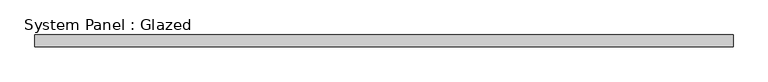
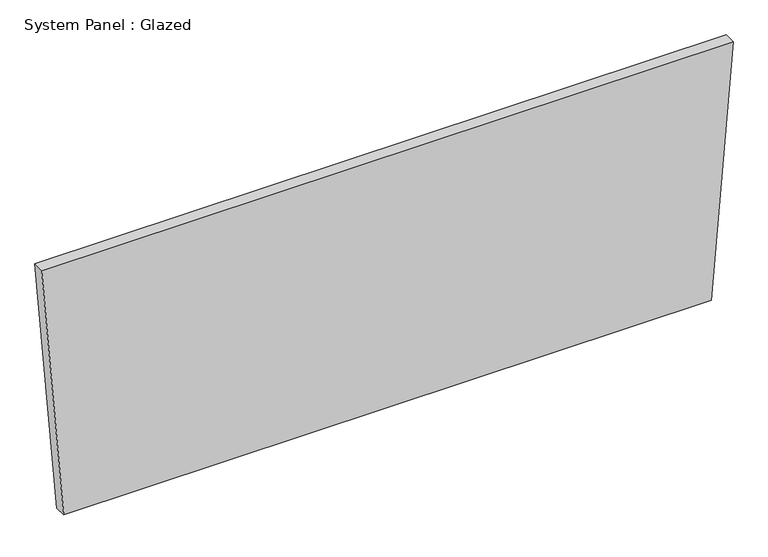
"""IFC4 building model written with IfcOpenShell, lengths in millimetres: plate geometry, System Panel : Glazed."""

import ifcopenshell
import ifcopenshell.guid

model = None  # the IFC model being written
_history = None  # IfcOwnerHistory: only IFC2X3 demands one
_inside = {}  # id of a spatial element -> (the spatial element, [elements in it])
_under = {}  # id of a project, library or spatial element -> (it, [spatial elements below it])
_declared = {}  # id of a project -> (the project, [libraries it declares])
_typed = {}  # id of a type object -> (the type object, [elements of that type])
_made_of = {}  # id of a material, layer set ... -> (it, [elements and type objects made of it])


def new_model(schema):
    """Start an empty IFC model of exactly this schema.

    Asked for "IFC4X3", IfcOpenShell would pick the latest addendum, in which some entities
    have other attributes; the version numbers below select the first issue.
    IFC2X3 requires an IfcOwnerHistory on every rooted entity: one is made here for all.
    """
    global model, _history
    if schema == "IFC4X3":
        model = ifcopenshell.file(schema_version=(4, 3, 0, 0))
    else:
        model = ifcopenshell.file(schema=schema)
    _inside.clear()
    _under.clear()
    _declared.clear()
    _typed.clear()
    _made_of.clear()
    _history = None
    if model.schema == "IFC2X3":
        org = make("IfcOrganization", Name="unknown")
        user = make(
            "IfcPersonAndOrganization",
            ThePerson=make("IfcPerson", FamilyName="unknown"),
            TheOrganization=org,
        )
        app = make(
            "IfcApplication",
            ApplicationDeveloper=org,
            Version="unknown",
            ApplicationFullName="unknown",
            ApplicationIdentifier="unknown",
        )
        _history = make(
            "IfcOwnerHistory",
            OwningUser=user,
            OwningApplication=app,
            ChangeAction="ADDED",
            CreationDate=0,
        )
    return model


def make(cls, **values):
    """One entity of the class cls with the attributes given. An attribute that is None is left unset."""
    return model.create_entity(
        cls, **{name: value for name, value in values.items() if value is not None}
    )


def rooted(cls, **values):
    """An entity with a GlobalId (a new one), such as an element, a storey or a relation."""
    return make(cls, GlobalId=ifcopenshell.guid.new(), OwnerHistory=_history, **values)


def si_unit(unit_type, name, prefix=None):
    """IfcSIUnit, for example si_unit("LENGTHUNIT", "METRE", prefix="MILLI")."""
    return make("IfcSIUnit", UnitType=unit_type, Prefix=prefix, Name=name)


def assignment(units):
    """IfcUnitAssignment: the units of a project."""
    return None if units is None else make("IfcUnitAssignment", Units=units)


def point(xyz):
    """IfcCartesianPoint."""
    return None if xyz is None else make("IfcCartesianPoint", Coordinates=xyz)


def direction(xyz):
    """IfcDirection."""
    return None if xyz is None else make("IfcDirection", DirectionRatios=xyz)


def frame(location, z_axis=None, x_axis=None):
    """IfcAxis2Placement3D, a coordinate frame: its origin and axes. An axis left out is left unset."""
    return make(
        "IfcAxis2Placement3D",
        Location=point(location),
        Axis=direction(z_axis),
        RefDirection=direction(x_axis),
    )


def origin():
    """The frame at (0, 0, 0) with its axes left unset."""
    return frame((0.0, 0.0, 0.0))


def place(relative_to, where):
    """IfcLocalPlacement: puts the frame where relative to a parent placement (None: the world)."""
    return make(
        "IfcLocalPlacement", PlacementRelTo=relative_to, RelativePlacement=where
    )


def context(
    kind, dimensions, precision=None, world=None, true_north=None, identifier=None
):
    """IfcGeometricRepresentationContext, for example the 3D "Model" context."""
    return make(
        "IfcGeometricRepresentationContext",
        ContextIdentifier=identifier,
        ContextType=kind,
        CoordinateSpaceDimension=dimensions,
        Precision=precision,
        WorldCoordinateSystem=world,
        TrueNorth=true_north,
    )


def project(units=None, contexts=None):
    """IfcProject with its units and contexts."""
    return rooted(
        "IfcProject",
        Name="project",
        RepresentationContexts=contexts,
        UnitsInContext=assignment(units),
    )


def spatial(cls, under=None, at=None, **own):
    """A site, building, storey or space (cls), placed at a placement, below another one or the project."""
    s = rooted(cls, ObjectPlacement=at, **own)
    if under is not None:
        _under.setdefault(under.id(), (under, []))[1].append(s)
    return s


def polyline(points):
    """IfcPolyline through the points."""
    return make("IfcPolyline", Points=[point(p) for p in points])


def outline(outer, holes=None, kind="AREA"):
    """IfcArbitraryClosedProfileDef: a profile drawn as a closed curve; with holes, ...WithVoids."""
    if holes is None:
        return make("IfcArbitraryClosedProfileDef", ProfileType=kind, OuterCurve=outer)
    return make(
        "IfcArbitraryProfileDefWithVoids",
        ProfileType=kind,
        OuterCurve=outer,
        InnerCurves=holes,
    )


def extrude(swept, where, along, depth):
    """IfcExtrudedAreaSolid: the profile swept, set in the frame where, extruded along a direction by depth."""
    return make(
        "IfcExtrudedAreaSolid",
        SweptArea=swept,
        Position=where,
        ExtrudedDirection=direction(along),
        Depth=depth,
    )


def shape(context_of_items, identifier, shape_type, items):
    """IfcShapeRepresentation: the items that make up one representation, for example the "Body"."""
    return make(
        "IfcShapeRepresentation",
        ContextOfItems=context_of_items,
        RepresentationIdentifier=identifier,
        RepresentationType=shape_type,
        Items=items,
    )


def source(mapping_origin, context_of_items, identifier, shape_type, items):
    """IfcRepresentationMap: a shape defined once, which mapped items show again and again."""
    return make(
        "IfcRepresentationMap",
        MappingOrigin=mapping_origin,
        MappedRepresentation=shape(context_of_items, identifier, shape_type, items),
    )


def transform(
    local_origin,
    x_axis=None,
    y_axis=None,
    z_axis=None,
    scale=None,
    scale2=None,
    scale3=None,
    uniform=True,
):
    """IfcCartesianTransformationOperator3D, or its non-uniform kind. x_axis, y_axis, z_axis: its Axis1, 2, 3."""
    if uniform:
        return make(
            "IfcCartesianTransformationOperator3D",
            Axis1=direction(x_axis),
            Axis2=direction(y_axis),
            LocalOrigin=point(local_origin),
            Scale=scale,
            Axis3=direction(z_axis),
        )
    return make(
        "IfcCartesianTransformationOperator3DnonUniform",
        Axis1=direction(x_axis),
        Axis2=direction(y_axis),
        LocalOrigin=point(local_origin),
        Scale=scale,
        Axis3=direction(z_axis),
        Scale2=scale2,
        Scale3=scale3,
    )


def mapped(mapping_source, mapping_target):
    """IfcMappedItem: shows the shape of a source again, moved by a transform."""
    return make(
        "IfcMappedItem", MappingSource=mapping_source, MappingTarget=mapping_target
    )


def made_of(thing, what):
    """Note that an element or type object is made of a material, layer set ...; save() writes the relation."""
    if what is not None:
        _made_of.setdefault(what.id(), (what, []))[1].append(thing)
    return thing


def element(
    cls,
    number,
    at=None,
    inside=None,
    cuts=None,
    type_object=None,
    material=None,
    context=None,
    identifier="Body",
    shape_type=None,
    held_by="IfcProductDefinitionShape",
    body=None,
    shapes=None,
    **own,
):
    """One element of the class cls, such as IfcWall. Its Tag is "e" and its number.

    at: its placement. inside: the storey or other place that contains it. cuts: it is an
    opening in that element (IfcRelVoidsElement). A single representation is given by context,
    identifier, shape_type and body (its items); several are given by shapes. held_by: the class
    of the entity that holds the representations. save() writes the other relations.
    """
    e = rooted(cls, Tag="e%d" % number, ObjectPlacement=at, **own)
    if body is not None:
        shapes = [shape(context, identifier, shape_type, body)]
    if shapes is not None:
        e.Representation = make(held_by, Representations=shapes)
    if inside is not None:
        _inside.setdefault(inside.id(), (inside, []))[1].append(e)
    if cuts is not None:
        rooted(
            "IfcRelVoidsElement", RelatingBuildingElement=cuts, RelatedOpeningElement=e
        )
    if type_object is not None:
        _typed.setdefault(type_object.id(), (type_object, []))[1].append(e)
    return made_of(e, material)


def aggregate(whole, parts):
    """IfcRelAggregates: a whole, such as a stair, and the parts it consists of."""
    return rooted("IfcRelAggregates", RelatingObject=whole, RelatedObjects=parts)


def save(model, path):
    """Write the relations noted so far, then the file.

    IfcRelAggregates (storeys below a building ...), IfcRelContainedInSpatialStructure (elements
    in a storey), IfcRelDefinesByType, IfcRelAssociatesMaterial and IfcRelDeclares: one each for
    every whole, place, type object, material and project.
    """
    for whole, parts in _under.values():
        aggregate(whole, parts)
    for where, things in _inside.values():
        rooted(
            "IfcRelContainedInSpatialStructure",
            RelatedElements=things,
            RelatingStructure=where,
        )
    for kind, things in _typed.values():
        rooted("IfcRelDefinesByType", RelatedObjects=things, RelatingType=kind)
    for what, things in _made_of.values():
        rooted("IfcRelAssociatesMaterial", RelatedObjects=things, RelatingMaterial=what)
    for by, libraries in _declared.values():
        rooted("IfcRelDeclares", RelatingContext=by, RelatedDefinitions=libraries)
    model.write(path)


def system_panel_glazed_d8ebcc32(model_context):
    return source(origin(), model_context, "Body", "SweptSolid", [
        extrude(outline(polyline([(0.0, -708.7702769), (0.0, 708.7702769), (582.1079843, 757.1205118), (582.1079843, -757.1205118), (0.0, -708.7702769)])), frame((0.0, -44.45, 0.0), z_axis=(0.0, 1.0, 0.0), x_axis=(0.0, 0.0, 1.0)), (0.0, 0.0, 1.0), 25.4),
    ])


if __name__ == "__main__":
    model = new_model("IFC4")
    model_context = context("Model", 3, world=origin())
    ifc_project = project(units=[si_unit("LENGTHUNIT", "METRE", prefix="MILLI")], contexts=[model_context])
    site = spatial("IfcSite", under=ifc_project)
    building = spatial("IfcBuilding", under=site)
    placement = place(None, origin())
    system_panel_glazed_shape = system_panel_glazed_d8ebcc32(model_context)
    element("IfcPlate", 1, ObjectType="System Panel : Glazed", at=placement, inside=building, context=model_context, shape_type="MappedRepresentation", body=[
        mapped(system_panel_glazed_shape, transform((0.0, 0.0, 0.0), x_axis=(1.0, 0.0, 0.0), y_axis=(0.0, 1.0, 0.0), z_axis=(0.0, 0.0, 1.0))),
    ])
    save(model, "model.ifc")
